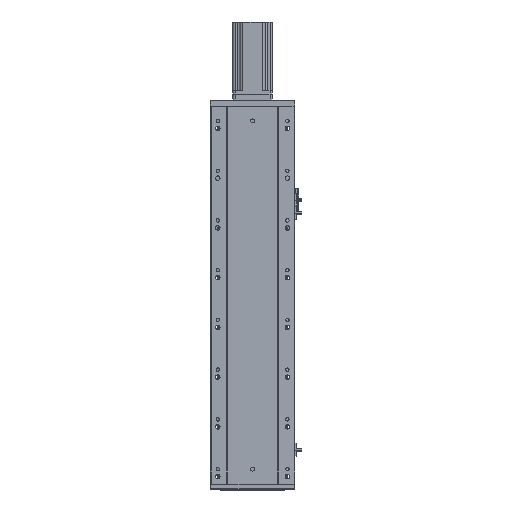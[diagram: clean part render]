
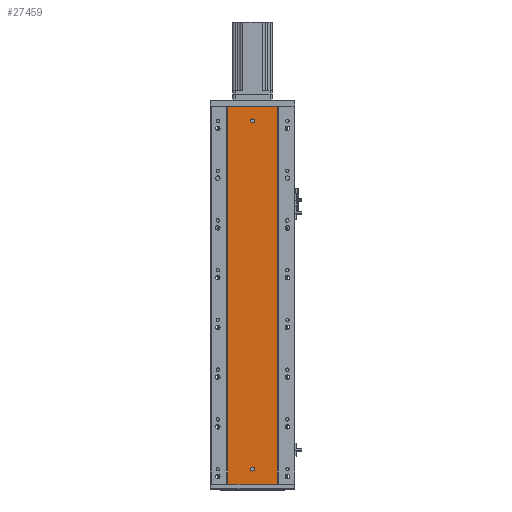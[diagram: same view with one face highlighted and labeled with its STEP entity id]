
A CAD part, front view. The second image highlights one B-rep face of the part: STEP entity #27459.
In plain terms, the highlighted planar face has unit normal (0, -1, 0).
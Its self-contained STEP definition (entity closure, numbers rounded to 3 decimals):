
#270 = ORIENTED_EDGE ( 'NONE', *, *, #10710, .F. ) ;
#1096 = VERTEX_POINT ( 'NONE', #34551 ) ;
#1112 = ORIENTED_EDGE ( 'NONE', *, *, #30842, .F. ) ;
#1471 = CARTESIAN_POINT ( 'NONE',  ( 86.97, 79.476, 0. ) ) ;
#3896 = AXIS2_PLACEMENT_3D ( 'NONE', #30756, #51666, #18752 ) ;
#4016 = CARTESIAN_POINT ( 'NONE',  ( 185.97, 79.476, 760. ) ) ;
#4024 = AXIS2_PLACEMENT_3D ( 'NONE', #64656, #14801, #26104 ) ;
#4700 = VERTEX_POINT ( 'NONE', #43073 ) ;
#5949 = ORIENTED_EDGE ( 'NONE', *, *, #40268, .F. ) ;
#6647 = AXIS2_PLACEMENT_3D ( 'NONE', #66838, #16735, #45040 ) ;
#8071 = DIRECTION ( 'NONE',  ( 1., 0., 0. ) ) ;
#9493 = CARTESIAN_POINT ( 'NONE',  ( 185.97, 79.476, 0. ) ) ;
#10710 = EDGE_CURVE ( 'NONE', #67268, #64453, #58809, .T. ) ;
#14329 = CARTESIAN_POINT ( 'NONE',  ( 185.97, 79.476, 506.667 ) ) ;
#14476 = VERTEX_POINT ( 'NONE', #17616 ) ;
#14801 = DIRECTION ( 'NONE',  ( 0., -1., 0. ) ) ;
#16735 = DIRECTION ( 'NONE',  ( 0., 1., 0. ) ) ;
#17616 = CARTESIAN_POINT ( 'NONE',  ( 136.47, 79.476, 26. ) ) ;
#18752 = DIRECTION ( 'NONE',  ( 0., 0., -1. ) ) ;
#19182 = EDGE_CURVE ( 'NONE', #40925, #46881, #54599, .T. ) ;
#19533 = EDGE_LOOP ( 'NONE', ( #65956, #53004, #53762, #25203 ) ) ;
#21085 = EDGE_LOOP ( 'NONE', ( #270, #5949 ) ) ;
#21802 = CARTESIAN_POINT ( 'NONE',  ( 185.97, 79.476, 0. ) ) ;
#22004 = CARTESIAN_POINT ( 'NONE',  ( 86.97, 79.476, 506.667 ) ) ;
#23711 = VECTOR ( 'NONE', #8071, 1000. ) ;
#25203 = ORIENTED_EDGE ( 'NONE', *, *, #57270, .T. ) ;
#26104 = DIRECTION ( 'NONE',  ( 0., 0., -1. ) ) ;
#27459 = ADVANCED_FACE ( 'NONE', ( #62502, #60760, #46207 ), #50342, .F. ) ;
#30450 = VERTEX_POINT ( 'NONE', #35082 ) ;
#30756 = CARTESIAN_POINT ( 'NONE',  ( 136.47, 79.476, 30. ) ) ;
#30842 = EDGE_CURVE ( 'NONE', #14476, #30450, #67110, .T. ) ;
#31601 = CARTESIAN_POINT ( 'NONE',  ( 185.97, 79.476, 253.333 ) ) ;
#32386 = EDGE_CURVE ( 'NONE', #4700, #1096, #54775, .T. ) ;
#32431 = EDGE_LOOP ( 'NONE', ( #1112, #56005 ) ) ;
#32535 = DIRECTION ( 'NONE',  ( 1., 0., 0. ) ) ;
#34551 = CARTESIAN_POINT ( 'NONE',  ( 185.97, 79.476, 760. ) ) ;
#35082 = CARTESIAN_POINT ( 'NONE',  ( 136.47, 79.476, 34. ) ) ;
#35448 = CARTESIAN_POINT ( 'NONE',  ( 0., 79.476, 0. ) ) ;
#36086 = CIRCLE ( 'NONE', #3896, 4. ) ;
#37943 = EDGE_CURVE ( 'NONE', #30450, #14476, #36086, .T. ) ;
#39772 = CARTESIAN_POINT ( 'NONE',  ( 86.97, 79.476, 253.333 ) ) ;
#40268 = EDGE_CURVE ( 'NONE', #64453, #67268, #62452, .T. ) ;
#40609 = AXIS2_PLACEMENT_3D ( 'NONE', #65269, #65975, #65740 ) ;
#40925 = VERTEX_POINT ( 'NONE', #1471 ) ;
#43073 = CARTESIAN_POINT ( 'NONE',  ( 86.97, 79.476, 760. ) ) ;
#43589 = VECTOR ( 'NONE', #32535, 1000. ) ;
#44067 = CARTESIAN_POINT ( 'NONE',  ( 86.97, 79.476, 760. ) ) ;
#45040 = DIRECTION ( 'NONE',  ( 0., 0., 1. ) ) ;
#46207 = FACE_OUTER_BOUND ( 'NONE', #19533, .T. ) ;
#46711 = B_SPLINE_CURVE_WITH_KNOTS ( 'NONE', 3,
 ( #4016, #14329, #31601, #9493 ),
 .UNSPECIFIED., .F., .F.,
 ( 4, 4 ),
 ( 0., 1. ),
 .UNSPECIFIED. ) ;
#46881 = VERTEX_POINT ( 'NONE', #21802 ) ;
#47710 = AXIS2_PLACEMENT_3D ( 'NONE', #48547, #64358, #59099 ) ;
#48547 = CARTESIAN_POINT ( 'NONE',  ( 136.47, 79.476, 730. ) ) ;
#50342 = PLANE ( 'NONE',  #6647 ) ;
#51666 = DIRECTION ( 'NONE',  ( 0., -1., 0. ) ) ;
#53004 = ORIENTED_EDGE ( 'NONE', *, *, #57497, .F. ) ;
#53762 = ORIENTED_EDGE ( 'NONE', *, *, #32386, .F. ) ;
#54599 = LINE ( 'NONE', #35448, #23711 ) ;
#54775 = LINE ( 'NONE', #59641, #43589 ) ;
#56005 = ORIENTED_EDGE ( 'NONE', *, *, #37943, .F. ) ;
#56391 = B_SPLINE_CURVE_WITH_KNOTS ( 'NONE', 3,
 ( #44067, #22004, #39772, #60376 ),
 .UNSPECIFIED., .F., .F.,
 ( 4, 4 ),
 ( 0., 1. ),
 .UNSPECIFIED. ) ;
#57270 = EDGE_CURVE ( 'NONE', #4700, #40925, #56391, .T. ) ;
#57497 = EDGE_CURVE ( 'NONE', #1096, #46881, #46711, .T. ) ;
#58809 = CIRCLE ( 'NONE', #40609, 4. ) ;
#59099 = DIRECTION ( 'NONE',  ( 0., 0., -1. ) ) ;
#59641 = CARTESIAN_POINT ( 'NONE',  ( 0., 79.476, 760. ) ) ;
#60376 = CARTESIAN_POINT ( 'NONE',  ( 86.97, 79.476, 0. ) ) ;
#60760 = FACE_BOUND ( 'NONE', #32431, .T. ) ;
#62452 = CIRCLE ( 'NONE', #47710, 4. ) ;
#62498 = CARTESIAN_POINT ( 'NONE',  ( 136.47, 79.476, 726. ) ) ;
#62502 = FACE_BOUND ( 'NONE', #21085, .T. ) ;
#63526 = CARTESIAN_POINT ( 'NONE',  ( 136.47, 79.476, 734. ) ) ;
#64358 = DIRECTION ( 'NONE',  ( 0., -1., 0. ) ) ;
#64453 = VERTEX_POINT ( 'NONE', #63526 ) ;
#64656 = CARTESIAN_POINT ( 'NONE',  ( 136.47, 79.476, 30. ) ) ;
#65269 = CARTESIAN_POINT ( 'NONE',  ( 136.47, 79.476, 730. ) ) ;
#65740 = DIRECTION ( 'NONE',  ( 0., 0., -1. ) ) ;
#65956 = ORIENTED_EDGE ( 'NONE', *, *, #19182, .T. ) ;
#65975 = DIRECTION ( 'NONE',  ( 0., -1., 0. ) ) ;
#66838 = CARTESIAN_POINT ( 'NONE',  ( 0., 79.476, 760. ) ) ;
#67110 = CIRCLE ( 'NONE', #4024, 4. ) ;
#67268 = VERTEX_POINT ( 'NONE', #62498 ) ;
